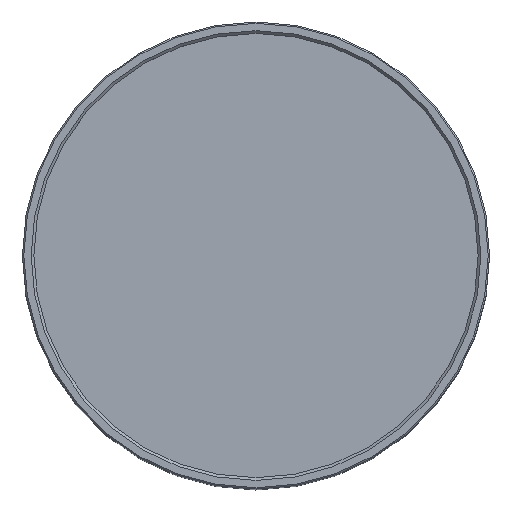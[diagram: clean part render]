
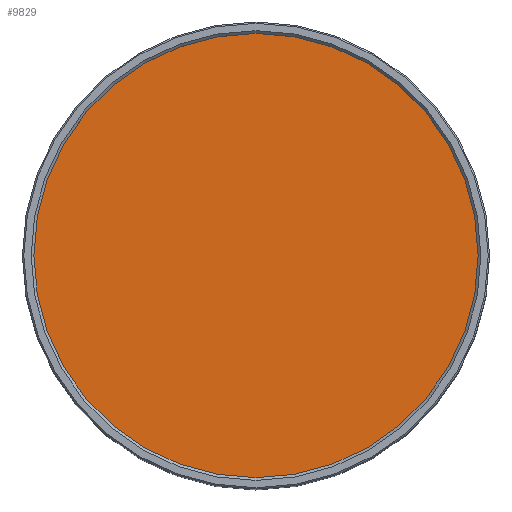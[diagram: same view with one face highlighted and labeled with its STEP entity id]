
A CAD part, top view. The second image highlights one B-rep face of the part: STEP entity #9829.
In plain terms, the highlighted planar face has unit normal (0, 0, 1).
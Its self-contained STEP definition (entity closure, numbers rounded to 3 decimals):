
#1616 = DIRECTION ( 'NONE',  ( 0., -1., 0. ) ) ;
#1858 = AXIS2_PLACEMENT_3D ( 'NONE', #14378, #14339, #14344 ) ;
#1859 = CARTESIAN_POINT ( 'NONE',  ( 0., 0., 195.993 ) ) ;
#2367 = ORIENTED_EDGE ( 'NONE', *, *, #8981, .T. ) ;
#3206 = VERTEX_POINT ( 'NONE', #10670 ) ;
#4939 = CIRCLE ( 'NONE', #1858, 49.46 ) ;
#6167 = FACE_OUTER_BOUND ( 'NONE', #13932, .T. ) ;
#6992 = PLANE ( 'NONE',  #7971 ) ;
#7971 = AXIS2_PLACEMENT_3D ( 'NONE', #1859, #8654, #1616 ) ;
#8654 = DIRECTION ( 'NONE',  ( 0., 0., 1. ) ) ;
#8981 = EDGE_CURVE ( 'NONE', #3206, #3206, #4939, .T. ) ;
#9829 = ADVANCED_FACE ( 'NONE', ( #6167 ), #6992, .T. ) ;
#10670 = CARTESIAN_POINT ( 'NONE',  ( 0., -49.46, 195.993 ) ) ;
#13932 = EDGE_LOOP ( 'NONE', ( #2367 ) ) ;
#14339 = DIRECTION ( 'NONE',  ( 0., 0., 1. ) ) ;
#14344 = DIRECTION ( 'NONE',  ( 0., -1., 0. ) ) ;
#14378 = CARTESIAN_POINT ( 'NONE',  ( 0., 0., 195.993 ) ) ;
